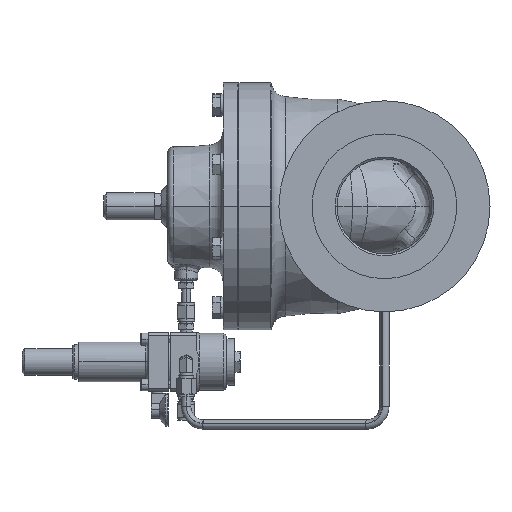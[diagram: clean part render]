
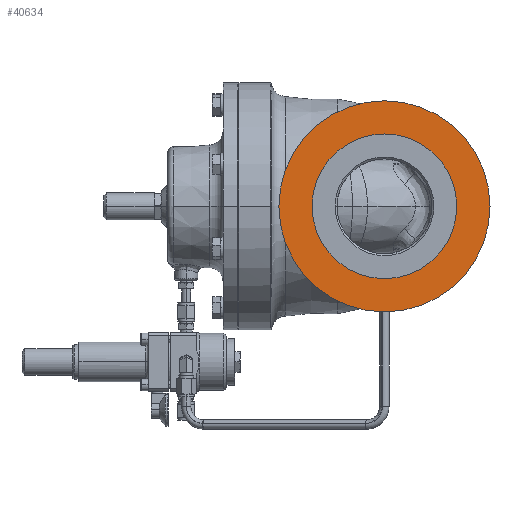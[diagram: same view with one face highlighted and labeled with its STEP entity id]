
A CAD part, left-side view. The second image highlights one B-rep face of the part: STEP entity #40634.
In plain terms, the highlighted planar face has unit normal (-1, 0, 0).
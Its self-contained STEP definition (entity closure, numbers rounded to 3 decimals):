
#3834=CARTESIAN_POINT('',(-174.9,-109.,0.));
#3835=DIRECTION('',(1.,0.,0.));
#3836=DIRECTION('',(0.,1.,0.));
#3837=AXIS2_PLACEMENT_3D('',#3834,#3835,#3836);
#3839=CARTESIAN_POINT('',(-174.9,-109.,0.));
#3840=DIRECTION('',(1.,0.,0.));
#3841=DIRECTION('',(0.,-1.,0.));
#3842=AXIS2_PLACEMENT_3D('',#3839,#3840,#3841);
#3844=CARTESIAN_POINT('',(-174.9,-109.,0.));
#3845=DIRECTION('',(-1.,0.,0.));
#3846=DIRECTION('',(0.,1.,0.));
#3847=AXIS2_PLACEMENT_3D('',#3844,#3845,#3846);
#3849=CARTESIAN_POINT('',(-174.9,-109.,0.));
#3850=DIRECTION('',(-1.,0.,0.));
#3851=DIRECTION('',(0.,-1.,0.));
#3852=AXIS2_PLACEMENT_3D('',#3849,#3850,#3851);
#32302=CARTESIAN_POINT('',(-174.9,-223.5,0.));
#32303=VERTEX_POINT('',#32302);
#32304=CARTESIAN_POINT('',(-174.9,5.5,0.));
#32305=VERTEX_POINT('',#32304);
#32306=CARTESIAN_POINT('',(-174.9,-30.5,0.));
#32307=CARTESIAN_POINT('',(-174.9,-187.5,0.));
#32308=VERTEX_POINT('',#32306);
#32309=VERTEX_POINT('',#32307);
#40619=CARTESIAN_POINT('',(-174.9,-109.,0.));
#40620=DIRECTION('',(1.,0.,0.));
#40621=DIRECTION('',(0.,1.,0.));
#40622=AXIS2_PLACEMENT_3D('',#40619,#40620,#40621);
#40623=PLANE('',#40622);
#40624=ORIENTED_EDGE('',*,*,#40599,.T.);
#40625=ORIENTED_EDGE('',*,*,#40613,.T.);
#40626=EDGE_LOOP('',(#40624,#40625));
#40627=FACE_OUTER_BOUND('',#40626,.F.);
#40629=ORIENTED_EDGE('',*,*,#40628,.T.);
#40631=ORIENTED_EDGE('',*,*,#40630,.T.);
#40632=EDGE_LOOP('',(#40629,#40631));
#40633=FACE_BOUND('',#40632,.F.);
#40634=ADVANCED_FACE('',(#40627,#40633),#40623,.F.);
#3838=CIRCLE('',#3837,114.5);
#3843=CIRCLE('',#3842,114.5);
#3848=CIRCLE('',#3847,78.5);
#3853=CIRCLE('',#3852,78.5);
#40599=EDGE_CURVE('',#32305,#32303,#3838,.T.);
#40613=EDGE_CURVE('',#32303,#32305,#3843,.T.);
#40628=EDGE_CURVE('',#32308,#32309,#3848,.T.);
#40630=EDGE_CURVE('',#32309,#32308,#3853,.T.);
